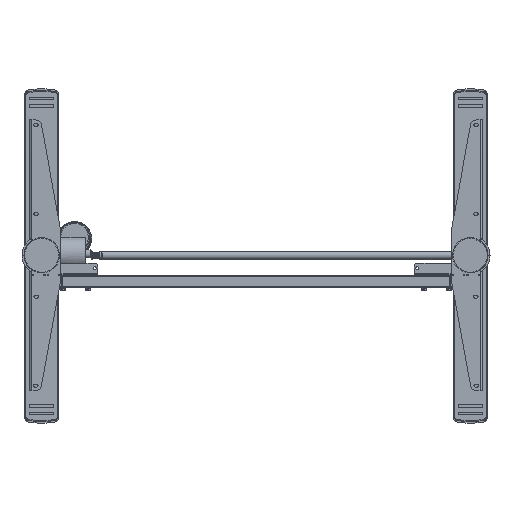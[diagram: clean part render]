
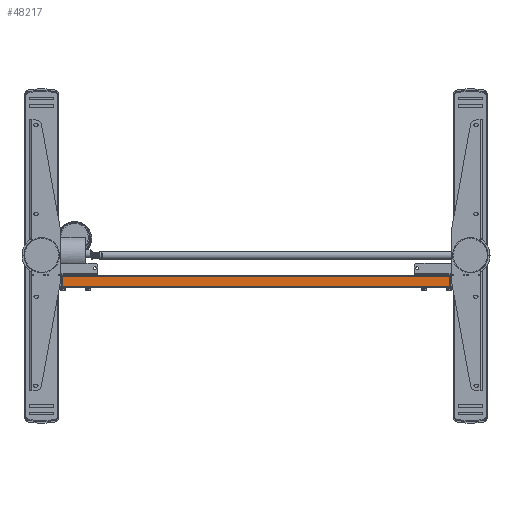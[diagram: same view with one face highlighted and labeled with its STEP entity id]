
A CAD part, top view. The second image highlights one B-rep face of the part: STEP entity #48217.
In plain terms, the highlighted planar face has unit normal (0, 0, 1) as drawn and (0, 1, 0) by its records, which use the part's own axes.
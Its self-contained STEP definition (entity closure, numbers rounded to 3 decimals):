
#2123 = DIRECTION ( 'NONE',  ( 1., 0., 0. ) ) ;
#3019 = ORIENTED_EDGE ( 'NONE', *, *, #27412, .T. ) ;
#4493 = VERTEX_POINT ( 'NONE', #11494 ) ;
#7112 = DIRECTION ( 'NONE',  ( 0., 0., -1. ) ) ;
#7193 = ORIENTED_EDGE ( 'NONE', *, *, #26933, .T. ) ;
#7915 = PLANE ( 'NONE',  #42810 ) ;
#8167 = VECTOR ( 'NONE', #57650, 1000. ) ;
#11131 = FACE_OUTER_BOUND ( 'NONE', #42542, .T. ) ;
#11494 = CARTESIAN_POINT ( 'NONE',  ( -10.5, 25., 394. ) ) ;
#19144 = CARTESIAN_POINT ( 'NONE',  ( 10.5, 25., -394. ) ) ;
#19484 = CARTESIAN_POINT ( 'NONE',  ( -10.5, 25., 447. ) ) ;
#22622 = DIRECTION ( 'NONE',  ( 0., 0., -1. ) ) ;
#24892 = EDGE_CURVE ( 'NONE', #38985, #57190, #41615, .T. ) ;
#25390 = LINE ( 'NONE', #59548, #79506 ) ;
#26933 = EDGE_CURVE ( 'NONE', #4493, #28195, #58876, .T. ) ;
#27412 = EDGE_CURVE ( 'NONE', #28195, #57190, #25390, .T. ) ;
#28195 = VERTEX_POINT ( 'NONE', #60797 ) ;
#28667 = CARTESIAN_POINT ( 'NONE',  ( -10.5, 25., 447. ) ) ;
#38985 = VERTEX_POINT ( 'NONE', #74334 ) ;
#41499 = LINE ( 'NONE', #28667, #51343 ) ;
#41615 = LINE ( 'NONE', #58435, #8167 ) ;
#42542 = EDGE_LOOP ( 'NONE', ( #43723, #69062, #7193, #3019 ) ) ;
#42810 = AXIS2_PLACEMENT_3D ( 'NONE', #19484, #51336, #7112 ) ;
#43723 = ORIENTED_EDGE ( 'NONE', *, *, #24892, .F. ) ;
#48217 = ADVANCED_FACE ( 'NONE', ( #11131 ), #7915, .F. ) ;
#49188 = EDGE_CURVE ( 'NONE', #4493, #38985, #41499, .T. ) ;
#51336 = DIRECTION ( 'NONE',  ( 0., -1., 0. ) ) ;
#51343 = VECTOR ( 'NONE', #22622, 1000. ) ;
#57190 = VERTEX_POINT ( 'NONE', #19144 ) ;
#57650 = DIRECTION ( 'NONE',  ( 1., 0., 0. ) ) ;
#58435 = CARTESIAN_POINT ( 'NONE',  ( -12.5, 25., -394. ) ) ;
#58876 = LINE ( 'NONE', #58991, #66830 ) ;
#58991 = CARTESIAN_POINT ( 'NONE',  ( -12.5, 25., 394. ) ) ;
#59548 = CARTESIAN_POINT ( 'NONE',  ( 10.5, 25., 447. ) ) ;
#60626 = DIRECTION ( 'NONE',  ( 0., 0., -1. ) ) ;
#60797 = CARTESIAN_POINT ( 'NONE',  ( 10.5, 25., 394. ) ) ;
#66830 = VECTOR ( 'NONE', #2123, 1000. ) ;
#69062 = ORIENTED_EDGE ( 'NONE', *, *, #49188, .F. ) ;
#74334 = CARTESIAN_POINT ( 'NONE',  ( -10.5, 25., -394. ) ) ;
#79506 = VECTOR ( 'NONE', #60626, 1000. ) ;
